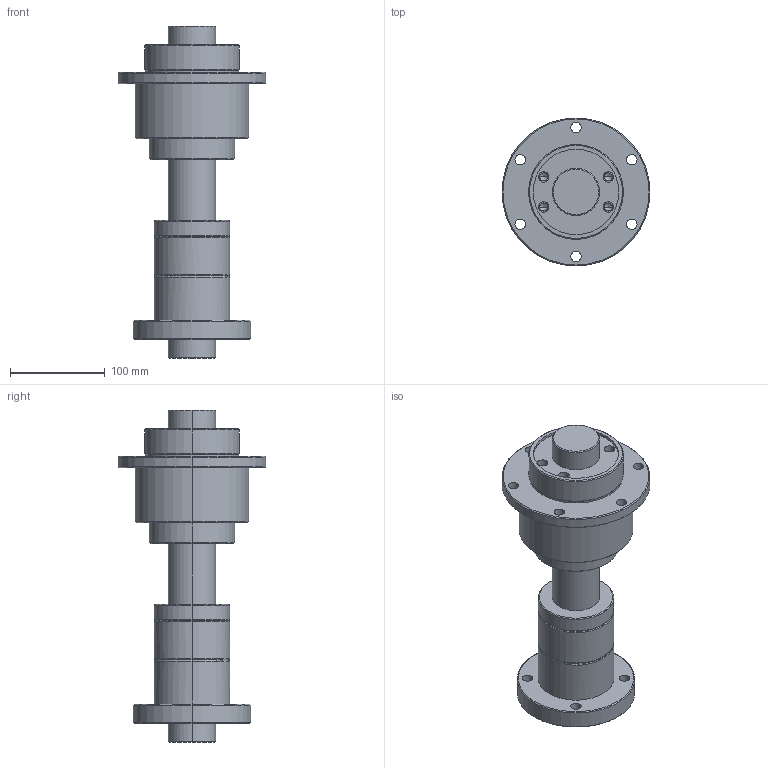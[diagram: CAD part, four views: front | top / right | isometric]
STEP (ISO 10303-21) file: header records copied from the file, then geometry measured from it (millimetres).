
FILE_DESCRIPTION (( 'STEP AP203' ), '1' );
FILE_NAME ('RBLY5050.STEP', '2014-11-13T08:58:14', ( '' ), ( '' ), 'SwSTEP 2.0', 'SolidWorks 2014', '' );
FILE_SCHEMA (( 'CONFIG_CONTROL_DESIGN' ));
Length unit declared in the file: millimetre
Products named in the file (4): SC50; RFBY5050; SLF50; RBLY5050
Assembly tree (3 placements, depth 2):
  RBLY5050
    SC50
    RFBY5050
    SLF50
Bounding box: 156 x 156 x 350 mm (x, y, z)
Volume: 2180744.2 mm3; surface area: 266281.3 mm2
Topology: 5 solids, 5 shells, 150 faces, 337 edges, 205 vertices
Faces by surface type: cylinder 82, cone 28, plane 24, torus 16
Entity records: 4854 total; most frequent: CARTESIAN_POINT 930, DIRECTION 828, ORIENTED_EDGE 658, AXIS2_PLACEMENT_3D 359, EDGE_CURVE 329, VERTEX_POINT 205, CIRCLE 203, EDGE_LOOP 198
